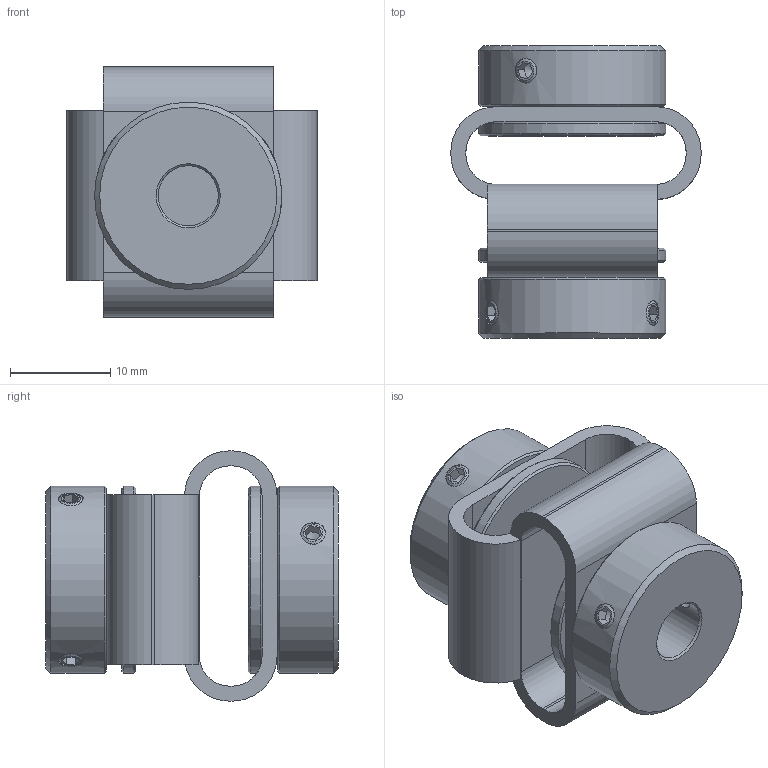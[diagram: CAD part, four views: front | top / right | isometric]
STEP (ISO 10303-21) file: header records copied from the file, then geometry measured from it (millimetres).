
FILE_DESCRIPTION(/* description */ (''),/* implementation_level */ '2;1');
FILE_NAME(/* name */ 'Z:\ABP-Antriebstechnik\Entwicklung-3D\Paguflex\DKPS 2928 06 06.stp',/* time_stamp */ '2017-06-21T09:51:21+02:00',/* author */ ('werner.boesinger'),/* organization */ (''),/* preprocessor_version */ 'ST-DEVELOPER v16.1',/* originating_system */ 'Autodesk Inventor 2016',/* authorisation */ '');
FILE_SCHEMA (('AUTOMOTIVE_DESIGN { 1 0 10303 214 3 1 1 }'));
Length unit declared in the file: millimetre
Products named in the file (1): DKPS 2928 06 06
Bounding box: 25 x 29.2 x 25 mm (x, y, z)
Volume: 5891.4 mm3; surface area: 5424.3 mm2
Topology: 1 solids, 3 shells, 154 faces, 366 edges, 226 vertices
Faces by surface type: plane 90, cylinder 36, cone 28
Full cylindrical faces by diameter (mm): 2.459 x8, 6 x2, 12.5 x2, 14 x4, 18.7 x4
Entity records: 4367 total; most frequent: CARTESIAN_POINT 961, DIRECTION 694, ORIENTED_EDGE 572, EDGE_CURVE 286, AXIS2_PLACEMENT_3D 273, EDGE_LOOP 220, VERTEX_POINT 192, STYLED_ITEM 155
